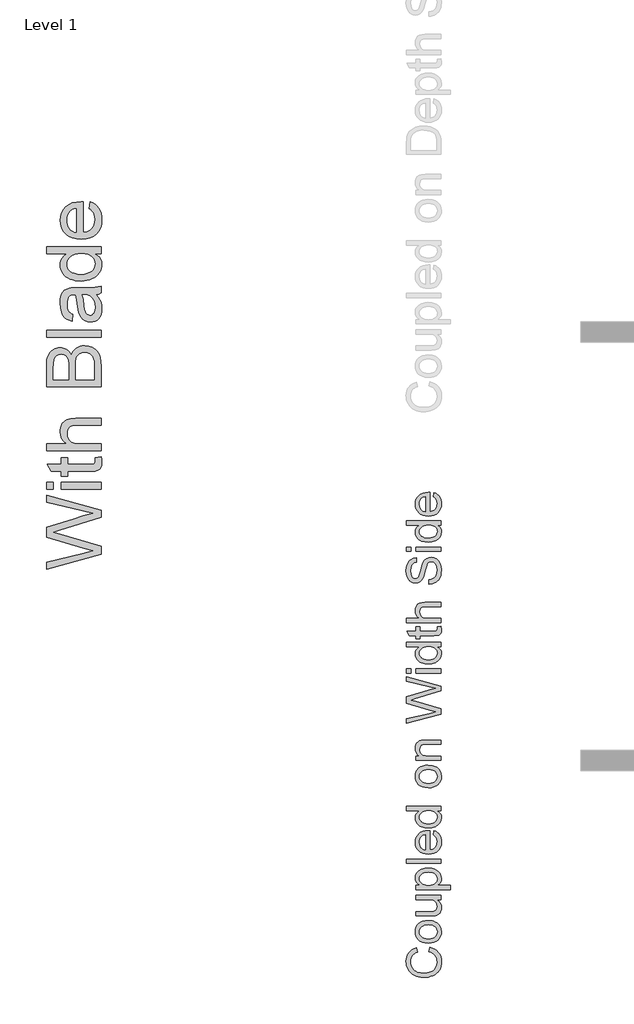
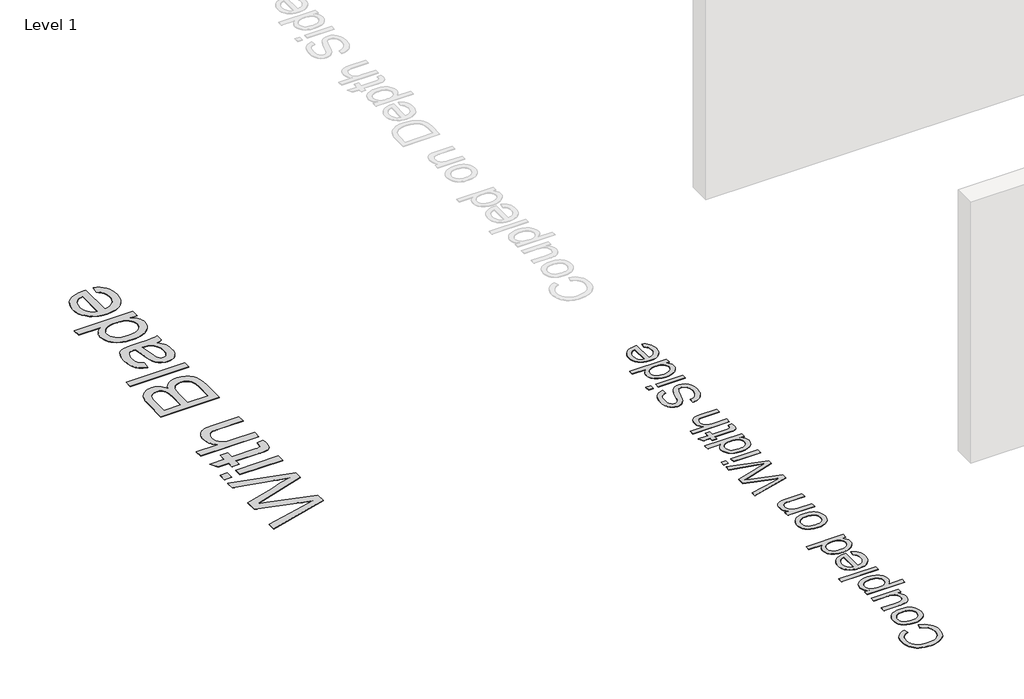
# One storey, part 48 of 80: 2 proxies.
"""IFC4 building model written with IfcOpenShell, lengths in millimetres."""

from ifc_helpers import new_model, si_unit, origin, origin_with_axes, place, context, project, spatial, polyline, outline, extrude, element, save

model = new_model("IFC4")

# Units and contexts
model_context = context("Model", 3, world=origin())
ifc_project = project(units=[si_unit("LENGTHUNIT", "METRE", prefix="MILLI")], contexts=[model_context])

# Site, building, storey
site = spatial("IfcSite", under=ifc_project)
building = spatial("IfcBuilding", under=site)
storey = spatial("IfcBuildingStorey", under=building, Name="Level 1", Elevation=0.0)

# Proxies
placement = place(None, origin())
element("IfcBuildingElementProxy", 1, Name="500mm Arial", ObjectType="500mm Arial", at=placement, inside=storey, context=model_context, shape_type="SweptSolid", body=[
    extrude(outline(polyline([(125834.4472638, 44082.6564057), (125850.6340716, 44145.4415995), (125889.6793805, 44133.017918), (125923.7966034, 44116.4708924), (125952.9857405, 44095.8005228), (125977.2467916, 44071.0068092), (125996.3191738, 44042.6492387), (126009.942304, 44011.2872986), (126018.116182, 43976.9209889), (126020.8408081, 43939.5503096), (126018.779136, 43901.2637573), (126012.59412, 43866.7250029), (126002.2857599, 43835.9340464), (125987.8540558, 43808.8908876), (125969.5136055, 43785.2238126), (125947.4790069, 43764.5611072), (125921.7502598, 43746.9027714), (125892.3273644, 43732.2488053), (125860.4825792, 43720.7409966), (125827.4881628, 43712.5211333), (125793.3441151, 43707.5892153), (125758.0504362, 43705.9452426), (125720.1815833, 43707.8038131), (125684.8112623, 43713.3795246), (125651.9394732, 43722.6723771), (125621.566216, 43735.6823706), (125594.1934963, 43752.1182651), (125570.3233197, 43771.6888208), (125549.9556863, 43794.3940377), (125533.0905961, 43820.2339158), (125519.8660048, 43848.3309032), (125510.4198682, 43877.807448), (125504.7521862, 43908.6635504), (125502.8629589, 43940.8992102), (125505.3078413, 43976.8098579), (125512.6424886, 44009.7391286), (125524.8669007, 44039.6870222), (125541.9810777, 44066.6535389), (125563.5328312, 44090.1941545), (125589.0699731, 44109.8643449), (125618.5925032, 44125.6641102), (125652.1004216, 44137.5934503), (125667.060956, 44074.8082565), (125642.3707092, 44064.9214278), (125621.2749761, 44053.0419051), (125603.7737566, 44039.1696882), (125589.8670507, 44023.3047771), (125579.2712828, 44005.3552014), (125571.7028772, 43985.2289906), (125567.1618338, 43962.9261447), (125565.6481527, 43938.4466636), (125567.3266143, 43910.2806983), (125572.3619991, 43884.5212944), (125580.7543071, 43861.168452), (125592.5035383, 43840.2221709), (125607.0808624, 43821.9468663), (125623.9574489, 43806.6069536), (125643.1332979, 43794.2024325), (125664.6084094, 43784.7333033), (125710.563002, 43772.7311532), (125757.9278088, 43768.7304365), (125815.9305368, 43773.4669172), (125866.0851154, 43787.6763592), (125887.7403358, 43798.4675644), (125906.4754928, 43811.8952572), (125922.2905865, 43827.9594377), (125935.1856169, 43846.6601058), (125952.3381149, 43888.3380701), (125958.0556142, 43933.2963156), (125956.1089053, 43960.5923933), (125950.2687787, 43985.7041715), (125940.5352342, 44008.6316505), (125926.908272, 44029.3748301), (125909.4492056, 44047.443201), (125888.2193488, 44062.3462539), (125863.2187015, 44074.0839888), (125834.4472638, 44082.6564057)])), origin_with_axes(), (0.0, 0.0, 1.0), 5.0),
    extrude(outline(polyline([(125828.5611519, 44208.2267934), (125780.790142, 44211.6220376), (125739.6256796, 44221.8077704), (125705.0677647, 44238.7839916), (125677.1163972, 44262.5507013), (125659.2511278, 44286.4783594), (125646.4902211, 44312.889221), (125638.8336771, 44341.783286), (125636.2814958, 44373.1605545), (125639.3893322, 44407.7989437), (125648.7128415, 44439.1187306), (125664.2520237, 44467.1199154), (125686.0068788, 44491.802498), (125713.2416427, 44511.9478693), (125745.2205516, 44526.3374203), (125781.9436053, 44534.9711509), (125823.410804, 44537.8490611), (125886.8397913, 44532.7600268), (125912.8751067, 44526.398734), (125935.1243032, 44517.492924), (125954.3423053, 44506.1537279), (125971.2840376, 44492.4922767), (125985.9495001, 44476.5085705), (125998.3386927, 44458.2026091), (126015.2152792, 44417.4750065), (126020.8408081, 44373.1605545), (126017.7444679, 44338.0163277), (126008.4554476, 44306.4053008), (125992.9737469, 44278.327474), (125971.299366, 44253.7828471), (125943.8001869, 44233.8520736), (125910.8440915, 44219.6158068), (125872.4310798, 44211.0740467), (125828.5611519, 44208.2267934)]), holes=[polyline([(125828.4385246, 44271.0119872), (125858.892256, 44272.8284046), (125885.2609644, 44278.2776566), (125907.5446499, 44287.3597434), (125925.7433123, 44300.0746648), (125939.8799444, 44315.541037), (125949.9775387, 44332.8774761), (125956.0360954, 44352.0839819), (125958.0556142, 44373.1605545), (125956.024599, 44394.1298283), (125949.9315535, 44413.259692), (125939.7764776, 44430.5501458), (125925.5593713, 44446.0011896), (125907.1806, 44458.716111), (125884.5405289, 44467.7981978), (125857.639158, 44473.2474499), (125826.4764873, 44475.0638672), (125796.9884461, 44473.2359535), (125771.3095164, 44467.7522126), (125749.4396982, 44458.6126442), (125731.3789915, 44445.8172486), (125717.2423594, 44430.3087232), (125707.1447651, 44413.0297658), (125701.0862085, 44393.9803762), (125699.0666896, 44373.1605545), (125701.0785443, 44352.0839819), (125707.1141083, 44332.8774761), (125717.1733816, 44315.541037), (125731.2563642, 44300.0746648), (125749.4013772, 44287.3597434), (125771.6467416, 44278.2776566), (125797.9924574, 44272.8284046), (125828.4385246, 44271.0119872)])]), origin_with_axes(), (0.0, 0.0, 1.0), 5.0),
    extrude(outline(polyline([(126012.9926588, 44843.926881), (125949.5943283, 44843.926881), (125980.7646632, 44821.2101678), (126003.0291881, 44794.753321), (126016.3879031, 44764.5563406), (126020.8408081, 44730.6192265), (126017.7138111, 44700.0390357), (126008.3328202, 44671.5741663), (125994.2306771, 44647.6924934), (125976.9402233, 44630.8618922), (125955.9402927, 44619.5341924), (125930.7097192, 44612.1612241), (125872.3391093, 44608.4824041), (125644.129645, 44608.4824041), (125644.129645, 44671.267598), (125842.7859224, 44671.267598), (125906.7973896, 44675.0690453), (125928.1498737, 44684.2201099), (125944.3826667, 44699.9010799), (125954.6373773, 44721.0696231), (125958.0556142, 44746.683407), (125954.5607353, 44773.7687189), (125944.0760984, 44799.1065913), (125927.5673939, 44819.9992229), (125906.0003119, 44833.7488125), (125876.4624534, 44841.3823639), (125836.0414192, 44843.926881), (125644.129645, 44843.926881), (125644.129645, 44906.7120749), (126012.9926588, 44906.7120749), (126012.9926588, 44843.926881)])), origin_with_axes(), (0.0, 0.0, 1.0), 5.0),
    extrude(outline(polyline([(126154.259345, 44993.0417164), (125644.129645, 44993.0417164), (125644.129645, 45055.8269103), (125705.6885655, 45055.8269103), (125675.3229725, 45076.3056747), (125653.6332632, 45099.2369857), (125640.6194376, 45125.969744), (125636.2814958, 45157.8528503), (125637.799009, 45179.7494932), (125642.3515487, 45200.3125639), (125649.9391148, 45219.5420623), (125660.5617075, 45237.4379885), (125673.943415, 45253.6094679), (125689.8083261, 45267.6656258), (125728.9877586, 45289.4319772), (125775.2489195, 45302.5837585), (125825.7407233, 45306.9676856), (125879.4361662, 45302.0166071), (125927.460095, 45287.1633716), (125948.735937, 45276.1422401), (125967.3752914, 45262.8831599), (125983.3781582, 45247.3861308), (125996.7445374, 45229.651153), (126014.8167404, 45190.9469014), (126020.8408081, 45150.2499557), (126016.8094345, 45121.3865475), (126004.7153139, 45095.6194794), (125986.4591699, 45073.5618881), (125963.9417261, 45055.8269103), (126154.259345, 45055.8269103), (126154.259345, 44993.0417164)]), holes=[polyline([(125831.5042079, 45055.8269103), (125861.762502, 45057.5245324), (125887.7901531, 45062.6173988), (125909.5871614, 45071.1055094), (125927.1535266, 45082.9888642), (125940.6731899, 45097.2941089), (125950.3300923, 45113.0478889), (125956.1242337, 45130.2502043), (125958.0556142, 45148.901055), (125956.0552559, 45167.8201531), (125950.0541808, 45185.336701), (125940.0523891, 45201.4506988), (125926.0498806, 45216.1621465), (125907.8473861, 45228.4210476), (125885.245636, 45237.1774055), (125858.2446304, 45242.4312202), (125826.8443693, 45244.1824918), (125796.8466583, 45242.4733734), (125770.8649923, 45237.346018), (125748.8993715, 45228.8004259), (125730.9497959, 45216.8365968), (125717.0009369, 45202.4968632), (125707.0374662, 45186.8235574), (125701.0593838, 45169.8166793), (125699.0666896, 45151.476229), (125701.1858432, 45133.1932603), (125707.5433039, 45115.9909449), (125718.1390718, 45099.8692829), (125732.9731468, 45084.8282742), (125751.8462596, 45072.1401775), (125774.5591407, 45063.0772512), (125801.1117901, 45057.6394955), (125831.5042079, 45055.8269103)])]), origin_with_axes(), (0.0, 0.0, 1.0), 5.0),
    extrude(outline(polyline([(126012.9926588, 45377.6010287), (125510.7111081, 45377.6010287), (125510.7111081, 45440.3862226), (126012.9926588, 45440.3862226), (126012.9926588, 45377.6010287)])), origin_with_axes(), (0.0, 0.0, 1.0), 5.0),
    extrude(outline(polyline([(125903.1185696, 45792.8171739), (125910.9667188, 45854.3760945), (125935.6224767, 45844.937622), (125957.3505071, 45832.1958758), (125976.1508099, 45816.1508559), (125992.0233851, 45796.8025622), (126004.6310077, 45774.3502642), (126013.6364523, 45748.9932313), (126019.0397191, 45720.7314634), (126020.8408081, 45689.5649606), (126017.7329716, 45650.6077902), (126008.4094623, 45615.8965911), (125992.8702801, 45585.4313634), (125971.115425, 45559.212107), (125943.7503696, 45538.1278701), (125911.3805861, 45523.067701), (125874.0060746, 45514.0315995), (125831.6268352, 45511.0195656), (125787.8105567, 45514.0622563), (125749.1906115, 45523.1903283), (125715.7669994, 45538.4037816), (125687.5397204, 45559.7026163), (125665.1142471, 45585.8528948), (125649.0960519, 45615.6206796), (125639.4851348, 45649.0059706), (125636.2814958, 45686.008768), (125639.4774706, 45721.819781), (125649.0653951, 45754.2048929), (125665.0452693, 45783.1641037), (125687.4170931, 45808.6974134), (125715.5830584, 45829.5402277), (125748.9453568, 45844.4279522), (125787.5039884, 45853.3605869), (125831.2589532, 45856.3381318), (125848.181525, 45855.9702498), (125848.181525, 45573.8047595), (125873.2358217, 45577.4414263), (125895.1784499, 45584.6726067), (125914.0094095, 45595.4983009), (125929.7287006, 45609.9185087), (125942.1217253, 45627.1361525), (125950.9738858, 45646.3541546), (125956.2851821, 45667.5725151), (125958.0556142, 45690.7912339), (125954.7753331, 45724.2071818), (125944.9344897, 45752.3501545), (125927.9199474, 45775.2201518), (125903.1185696, 45792.8171739)]), holes=[polyline([(125785.3963312, 45573.8047595), (125785.3963312, 45793.5529379), (125752.2256379, 45785.0609952), (125728.4972492, 45768.4143349), (125715.6213794, 45751.2924937), (125706.4243295, 45731.8100764), (125700.9060996, 45709.9670829), (125699.0666896, 45685.7635133), (125704.9374731, 45643.4417555), (125712.2759525, 45625.0284952), (125722.5498236, 45608.4469807), (125735.2839056, 45594.5326106), (125750.0030175, 45584.1207838), (125766.7071594, 45577.2115), (125785.3963312, 45573.8047595)])]), origin_with_axes(), (0.0, 0.0, 1.0), 5.0),
    extrude(outline(polyline([(126012.9926588, 46146.7196533), (125953.7636576, 46146.7196533), (125983.1099109, 46127.9346789), (126004.0715205, 46105.1796447), (126016.6484862, 46078.4545506), (126020.8408081, 46047.7593966), (126014.7707551, 46007.1697498), (125996.5605964, 45970.0136683), (125967.4825903, 45938.5597577), (125928.8089956, 45915.0766237), (125882.1033106, 45900.4533144), (125828.9290339, 45895.5788779), (125776.4138791, 45900.0701039), (125728.9877586, 45913.543782), (125707.8575365, 45923.6452085), (125689.3484736, 45935.9845837), (125673.4605699, 45950.5619078), (125660.1938255, 45967.3771806), (125642.2595782, 46005.3456682), (125636.2814958, 46047.5141419), (125640.558124, 46078.2322885), (125653.3880085, 46105.3942425), (125673.0543669, 46128.417524), (125697.8404163, 46146.7196533), (125510.7111081, 46146.7196533), (125510.7111081, 46209.5048471), (126012.9926588, 46209.5048471), (126012.9926588, 46146.7196533)]), holes=[polyline([(125828.6837793, 45958.3640718), (125859.1298465, 45960.1345039), (125885.4755623, 45965.4458002), (125907.7209267, 45974.2979607), (125925.8659396, 45986.6909854), (125939.9489223, 46001.4905715), (125950.0081956, 46017.5624162), (125956.0437596, 46034.9065194), (125958.0556142, 46053.5228812), (125956.1357301, 46072.2273814), (125950.3760776, 46089.4680178), (125940.7766568, 46105.2447904), (125927.3374676, 46119.5576993), (125909.9512112, 46131.4410542), (125888.5105887, 46139.9291648), (125863.0156, 46145.0220312), (125833.4662452, 46146.7196533), (125801.069637, 46144.9913743), (125773.2868821, 46139.8065375), (125750.1179807, 46131.1651427), (125731.5629325, 46119.06719), (125717.3458263, 46104.4400486), (125707.1907503, 46088.2110876), (125701.0977048, 46070.3803072), (125699.0666896, 46050.9477072), (125701.0172306, 46031.9634634), (125706.8688536, 46014.6193602), (125716.6215586, 45998.9153975), (125730.2753455, 45984.8515754), (125748.1291186, 45973.2632926), (125770.4817819, 45964.9859477), (125797.3333355, 45960.0195407), (125828.6837793, 45958.3640718)])]), origin_with_axes(), (0.0, 0.0, 1.0), 5.0),
    extrude(outline(polyline([(125828.5611519, 46484.1900702), (125780.790142, 46487.5853144), (125739.6256796, 46497.7710472), (125705.0677647, 46514.7472684), (125677.1163972, 46538.5139782), (125659.2511278, 46562.4416363), (125646.4902211, 46588.8524978), (125638.8336771, 46617.7465629), (125636.2814958, 46649.1238314), (125639.3893322, 46683.7622205), (125648.7128415, 46715.0820074), (125664.2520237, 46743.0831922), (125686.0068788, 46767.7657748), (125713.2416427, 46787.9111462), (125745.2205516, 46802.3006971), (125781.9436053, 46810.9344277), (125823.410804, 46813.8123379), (125886.8397913, 46808.7233036), (125912.8751067, 46802.3620108), (125935.1243032, 46793.4562008), (125954.3423053, 46782.1170047), (125971.2840376, 46768.4555536), (125985.9495001, 46752.4718473), (125998.3386927, 46734.1658859), (126015.2152792, 46693.4382834), (126020.8408081, 46649.1238314), (126017.7444679, 46613.9796045), (126008.4554476, 46582.3685777), (125992.9737469, 46554.2907508), (125971.299366, 46529.7461239), (125943.8001869, 46509.8153504), (125910.8440915, 46495.5790836), (125872.4310798, 46487.0373236), (125828.5611519, 46484.1900702)]), holes=[polyline([(125828.4385246, 46546.975264), (125858.892256, 46548.7916814), (125885.2609644, 46554.2409334), (125907.5446499, 46563.3230202), (125925.7433123, 46576.0379417), (125939.8799444, 46591.5043139), (125949.9775387, 46608.8407529), (125956.0360954, 46628.0472587), (125958.0556142, 46649.1238314), (125956.024599, 46670.0931051), (125949.9315535, 46689.2229688), (125939.7764776, 46706.5134226), (125925.5593713, 46721.9644664), (125907.1806, 46734.6793879), (125884.5405289, 46743.7614746), (125857.639158, 46749.2107267), (125826.4764873, 46751.027144), (125796.9884461, 46749.1992304), (125771.3095164, 46743.7154894), (125749.4396982, 46734.5759211), (125731.3789915, 46721.7805254), (125717.2423594, 46706.2720001), (125707.1447651, 46688.9930426), (125701.0862085, 46669.943653), (125699.0666896, 46649.1238314), (125701.0785443, 46628.0472587), (125707.1141083, 46608.8407529), (125717.1733816, 46591.5043139), (125731.2563642, 46576.0379417), (125749.4013772, 46563.3230202), (125771.6467416, 46554.2409334), (125797.9924574, 46548.7916814), (125828.4385246, 46546.975264)])]), origin_with_axes(), (0.0, 0.0, 1.0), 5.0),
    extrude(outline(polyline([(126012.9926588, 46884.445681), (125644.129645, 46884.445681), (125644.129645, 46947.2308748), (125695.6331243, 46947.2308748), (125669.6667868, 46969.0432114), (125651.1194029, 46995.2394752), (125639.9909726, 47025.819666), (125636.2814958, 47060.783784), (125639.270537, 47091.7318568), (125648.2376606, 47120.0740989), (125662.0638923, 47143.7105171), (125679.6302575, 47160.5411183), (125700.8907712, 47171.9607886), (125725.7994479, 47179.3644138), (125786.4999771, 47182.6753517), (126012.9926588, 47182.6753517), (126012.9926588, 47119.8901579), (125794.961263, 47119.8901579), (125762.495677, 47118.0814047), (125739.4110818, 47112.6551453), (125722.8717204, 47102.6456893), (125710.0418358, 47087.0873466), (125701.8104762, 47067.1450768), (125699.0666896, 47043.9838395), (125700.6071955, 47024.9191215), (125705.228713, 47007.2109684), (125712.9312423, 46990.8593802), (125723.7147833, 46975.8643568), (125738.8056093, 46963.3372084), (125759.4299937, 46954.3892453), (125785.5879364, 46949.0204674), (125817.2794374, 46947.2308748), (126012.9926588, 46947.2308748), (126012.9926588, 46884.445681)])), origin_with_axes(), (0.0, 0.0, 1.0), 5.0),
    extrude(outline(polyline([(126012.9926588, 47562.9427074), (125510.7111081, 47425.9679779), (125510.7111081, 47490.715209), (125840.8238851, 47570.17772), (125942.7271978, 47594.7031863), (125852.5961089, 47620.9454353), (125510.7111081, 47720.5188287), (125510.7111081, 47813.8382281), (125758.5409455, 47886.1883538), (125850.5114443, 47917.1824119), (125942.7271978, 47940.0217524), (125843.7669411, 47963.8114548), (125510.7111081, 48044.0097297), (125510.7111081, 48108.7569609), (126012.9926588, 47971.659604), (126012.9926588, 47904.5824536), (125625.4902906, 47784.1624138), (125571.4116373, 47767.3624694), (125636.5267504, 47748.4778603), (126012.9926588, 47638.7263984), (126012.9926588, 47562.9427074)])), origin_with_axes(), (0.0, 0.0, 1.0), 5.0),
    extrude(outline(polyline([(126012.9926588, 48163.6940055), (125644.129645, 48163.6940055), (125644.129645, 48226.4791994), (126012.9926588, 48226.4791994), (126012.9926588, 48163.6940055)])), origin_with_axes(), (0.0, 0.0, 1.0), 5.0),
    extrude(outline(polyline([(125573.4963019, 48163.6940055), (125510.7111081, 48163.6940055), (125510.7111081, 48226.4791994), (125573.4963019, 48226.4791994), (125573.4963019, 48163.6940055)])), origin_with_axes(), (0.0, 0.0, 1.0), 5.0),
    extrude(outline(polyline([(126012.9926588, 48548.2533178), (125953.7636576, 48548.2533178), (125983.1099109, 48529.4683434), (126004.0715205, 48506.7133092), (126016.6484862, 48479.9882151), (126020.8408081, 48449.2930611), (126014.7707551, 48408.7034143), (125996.5605964, 48371.5473328), (125967.4825903, 48340.0934222), (125928.8089956, 48316.6102882), (125882.1033106, 48301.9869789), (125828.9290339, 48297.1125424), (125776.4138791, 48301.6037685), (125728.9877586, 48315.0774465), (125707.8575365, 48325.178873), (125689.3484736, 48337.5182482), (125673.4605699, 48352.0955723), (125660.1938255, 48368.9108452), (125642.2595782, 48406.8793327), (125636.2814958, 48449.0478064), (125640.558124, 48479.765953), (125653.3880085, 48506.927907), (125673.0543669, 48529.9511885), (125697.8404163, 48548.2533178), (125510.7111081, 48548.2533178), (125510.7111081, 48611.0385116), (126012.9926588, 48611.0385116), (126012.9926588, 48548.2533178)]), holes=[polyline([(125828.6837793, 48359.8977363), (125859.1298465, 48361.6681684), (125885.4755623, 48366.9794647), (125907.7209267, 48375.8316252), (125925.8659396, 48388.2246499), (125939.9489223, 48403.024236), (125950.0081956, 48419.0960807), (125956.0437596, 48436.4401839), (125958.0556142, 48455.0565457), (125956.1357301, 48473.7610459), (125950.3760776, 48491.0016823), (125940.7766568, 48506.778455), (125927.3374676, 48521.0913638), (125909.9512112, 48532.9747187), (125888.5105887, 48541.4628293), (125863.0156, 48546.5556957), (125833.4662452, 48548.2533178), (125801.069637, 48546.5250388), (125773.2868821, 48541.340202), (125750.1179807, 48532.6988072), (125731.5629325, 48520.6008545), (125717.3458263, 48505.9737131), (125707.1907503, 48489.7447522), (125701.0977048, 48471.9139717), (125699.0666896, 48452.4813717), (125701.0172306, 48433.4971279), (125706.8688536, 48416.1530247), (125716.6215586, 48400.449062), (125730.2753455, 48386.3852399), (125748.1291186, 48374.7969571), (125770.4817819, 48366.5196122), (125797.3333355, 48361.5532053), (125828.6837793, 48359.8977363)])]), origin_with_axes(), (0.0, 0.0, 1.0), 5.0),
    extrude(outline(polyline([(125960.6307882, 48838.6348393), (126014.8320688, 48846.4829886), (126020.8408081, 48799.5167205), (126018.2349773, 48769.3810537), (126010.4174849, 48746.9095952), (125998.3693495, 48731.0293557), (125983.0715899, 48720.6673462), (125956.7986841, 48714.9651753), (125911.8251102, 48713.0644516), (125706.9148388, 48713.0644516), (125706.9148388, 48665.9755563), (125644.129645, 48665.9755563), (125644.129645, 48713.0644516), (125554.4890655, 48713.0644516), (125517.5782387, 48775.8496455), (125644.129645, 48775.8496455), (125644.129645, 48838.6348393), (125706.9148388, 48838.6348393), (125706.9148388, 48775.8496455), (125909.9857002, 48775.8496455), (125942.3593158, 48779.1605834), (125953.8249713, 48789.890475), (125958.0556142, 48811.2889444), (125960.6307882, 48838.6348393)])), origin_with_axes(), (0.0, 0.0, 1.0), 5.0),
    extrude(outline(polyline([(126012.9926588, 48901.4200332), (125510.7111081, 48901.4200332), (125510.7111081, 48964.205227), (125695.3878697, 48964.205227), (125669.5288311, 48987.2668296), (125651.0580892, 49013.1641892), (125639.9756441, 49041.8973059), (125636.2814958, 49073.4661796), (125640.3128693, 49111.3886819), (125652.4069899, 49143.9768953), (125671.6134957, 49169.6366645), (125696.982025, 49186.7738341), (125731.838844, 49196.4307365), (125779.5102192, 49199.6497039), (126012.9926588, 49199.6497039), (126012.9926588, 49136.8645101), (125786.0094678, 49136.8645101), (125746.707408, 49131.8674463), (125731.7008883, 49125.6211166), (125719.7907087, 49116.876255), (125710.7239503, 49105.8397952), (125704.2476944, 49092.7186707), (125699.0666896, 49060.2224278), (125702.5615686, 49033.6889389), (125713.0462054, 49008.7802621), (125729.5089247, 48988.1482135), (125750.9380509, 48974.4446092), (125779.4182487, 48966.7650726), (125817.0341827, 48964.205227), (126012.9926588, 48964.205227), (126012.9926588, 48901.4200332)])), origin_with_axes(), (0.0, 0.0, 1.0), 5.0),
    extrude(outline(polyline([(125840.3333758, 49466.4867778), (125840.3333758, 49529.2719716), (125875.1748664, 49536.4763273), (125903.1798833, 49549.5054813), (125925.4060871, 49569.8309616), (125942.9111388, 49598.924296), (125954.2694954, 49634.4862222), (125958.0556142, 49674.2174777), (125955.1892003, 49709.1969241), (125946.5899587, 49739.8231002), (125932.9783249, 49764.6398064), (125915.0747345, 49782.1908433), (125894.519328, 49792.6294949), (125872.952246, 49796.1090454), (125851.936987, 49793.5032146), (125833.7728135, 49785.6857222), (125818.2757845, 49769.8054828), (125805.2619589, 49743.0114108), (125781.2883155, 49651.592735), (125765.4234045, 49591.5819845), (125750.3249143, 49553.1843013), (125729.2023564, 49521.9296601), (125703.6039009, 49499.7800983), (125674.0813708, 49486.5823318), (125641.186589, 49482.1830762), (125604.4137179, 49487.6246641), (125570.1240503, 49503.9494276), (125554.5963644, 49516.0857013), (125541.0613727, 49530.7281712), (125519.9694716, 49567.5316991), (125507.139587, 49611.7081954), (125502.8629589, 49660.6058439), (125507.3388565, 49713.5808512), (125520.7665493, 49759.9339826), (125542.8701258, 49798.0097691), (125557.0719037, 49813.3228571), (125573.3736746, 49826.1527417), (125610.3764719, 49843.9643617), (125651.9777942, 49851.0460901), (125651.9777942, 49788.2608962), (125631.9435539, 49784.0609101), (125614.5151444, 49776.733927), (125599.6925657, 49766.279947), (125587.4758177, 49752.69897), (125577.9262143, 49735.7380772), (125571.105069, 49715.1443497), (125565.6481527, 49663.0583905), (125571.0437553, 49609.7461581), (125577.7882585, 49589.3670284), (125587.2305631, 49573.1725564), (125598.5812555, 49560.8331811), (125611.0509223, 49552.0193416), (125624.6395635, 49546.731038), (125639.3471791, 49544.9682701), (125663.4741066, 49549.9653338), (125682.8798818, 49564.9565251), (125691.5097803, 49578.7214431), (125700.2316493, 49600.395824), (125717.9512987, 49667.4729745), (125734.7819, 49736.6961032), (125749.466523, 49778.573337), (125772.2445498, 49814.3651895), (125800.3568656, 49839.3351799), (125833.496902, 49854.0044744), (125871.3580907, 49858.8942393), (125910.0623423, 49853.2687104), (125946.4673314, 49836.3921239), (125977.7986146, 49808.9542584), (126001.2817487, 49771.6448928), (126015.9510432, 49726.7786178), (126020.8408081, 49676.6700243), (126015.5678328, 49615.1570891), (126008.9766137, 49588.4818123), (125999.748907, 49564.5273295), (125987.8693842, 49543.1480206), (125973.322717, 49524.1982658), (125956.1089053, 49507.6780649), (125936.2279492, 49493.5874181), (125914.323642, 49482.2367257), (125891.0397774, 49473.9363882), (125866.3763553, 49468.6864055), (125840.3333758, 49466.4867778)])), origin_with_axes(), (0.0, 0.0, 1.0), 5.0),
    extrude(outline(polyline([(126012.9926588, 49945.2238808), (125644.129645, 49945.2238808), (125644.129645, 50008.0090747), (126012.9926588, 50008.0090747), (126012.9926588, 49945.2238808)])), origin_with_axes(), (0.0, 0.0, 1.0), 5.0),
    extrude(outline(polyline([(125573.4963019, 49945.2238808), (125510.7111081, 49945.2238808), (125510.7111081, 50008.0090747), (125573.4963019, 50008.0090747), (125573.4963019, 49945.2238808)])), origin_with_axes(), (0.0, 0.0, 1.0), 5.0),
    extrude(outline(polyline([(126012.9926588, 50329.7831931), (125953.7636576, 50329.7831931), (125983.1099109, 50310.9982187), (126004.0715205, 50288.2431845), (126016.6484862, 50261.5180904), (126020.8408081, 50230.8229364), (126014.7707551, 50190.2332896), (125996.5605964, 50153.0772081), (125967.4825903, 50121.6232975), (125928.8089956, 50098.1401635), (125882.1033106, 50083.5168542), (125828.9290339, 50078.6424177), (125776.4138791, 50083.1336438), (125728.9877586, 50096.6073218), (125707.8575365, 50106.7087483), (125689.3484736, 50119.0481235), (125673.4605699, 50133.6254476), (125660.1938255, 50150.4407205), (125642.2595782, 50188.4092081), (125636.2814958, 50230.5776817), (125640.558124, 50261.2958283), (125653.3880085, 50288.4577823), (125673.0543669, 50311.4810639), (125697.8404163, 50329.7831931), (125510.7111081, 50329.7831931), (125510.7111081, 50392.568387), (126012.9926588, 50392.568387), (126012.9926588, 50329.7831931)]), holes=[polyline([(125828.6837793, 50141.4276116), (125859.1298465, 50143.1980437), (125885.4755623, 50148.50934), (125907.7209267, 50157.3615005), (125925.8659396, 50169.7545252), (125939.9489223, 50184.5541113), (125950.0081956, 50200.625956), (125956.0437596, 50217.9700592), (125958.0556142, 50236.586421), (125956.1357301, 50255.2909212), (125950.3760776, 50272.5315576), (125940.7766568, 50288.3083303), (125927.3374676, 50302.6212391), (125909.9512112, 50314.504594), (125888.5105887, 50322.9927046), (125863.0156, 50328.085571), (125833.4662452, 50329.7831931), (125801.069637, 50328.0549142), (125773.2868821, 50322.8700773), (125750.1179807, 50314.2286825), (125731.5629325, 50302.1307298), (125717.3458263, 50287.5035884), (125707.1907503, 50271.2746275), (125701.0977048, 50253.443847), (125699.0666896, 50234.011247), (125701.0172306, 50215.0270032), (125706.8688536, 50197.6829), (125716.6215586, 50181.9789373), (125730.2753455, 50167.9151152), (125748.1291186, 50156.3268324), (125770.4817819, 50148.0494875), (125797.3333355, 50143.0830806), (125828.6837793, 50141.4276116)])]), origin_with_axes(), (0.0, 0.0, 1.0), 5.0),
    extrude(outline(polyline([(125903.1185696, 50744.9993383), (125910.9667188, 50806.5582589), (125935.6224767, 50797.1197864), (125957.3505071, 50784.3780402), (125976.1508099, 50768.3330203), (125992.0233851, 50748.9847266), (126004.6310077, 50726.5324286), (126013.6364523, 50701.1753957), (126019.0397191, 50672.9136278), (126020.8408081, 50641.747125), (126017.7329716, 50602.7899546), (126008.4094623, 50568.0787555), (125992.8702801, 50537.6135278), (125971.115425, 50511.3942714), (125943.7503696, 50490.3100346), (125911.3805861, 50475.2498654), (125874.0060746, 50466.2137639), (125831.6268352, 50463.20173), (125787.8105567, 50466.2444207), (125749.1906115, 50475.3724927), (125715.7669994, 50490.585946), (125687.5397204, 50511.8847807), (125665.1142471, 50538.0350592), (125649.0960519, 50567.802844), (125639.4851348, 50601.1881351), (125636.2814958, 50638.1909324), (125639.4774706, 50674.0019454), (125649.0653951, 50706.3870573), (125665.0452693, 50735.3462681), (125687.4170931, 50760.8795778), (125715.5830584, 50781.7223921), (125748.9453568, 50796.6101166), (125787.5039884, 50805.5427513), (125831.2589532, 50808.5202962), (125848.181525, 50808.1524142), (125848.181525, 50525.9869239), (125873.2358217, 50529.6235907), (125895.1784499, 50536.8547711), (125914.0094095, 50547.6804653), (125929.7287006, 50562.1006731), (125942.1217253, 50579.3183169), (125950.9738858, 50598.536319), (125956.2851821, 50619.7546795), (125958.0556142, 50642.9733983), (125954.7753331, 50676.3893462), (125944.9344897, 50704.5323189), (125927.9199474, 50727.4023162), (125903.1185696, 50744.9993383)]), holes=[polyline([(125785.3963312, 50525.9869239), (125785.3963312, 50745.7351023), (125752.2256379, 50737.2431596), (125728.4972492, 50720.5964993), (125715.6213794, 50703.4746581), (125706.4243295, 50683.9922408), (125700.9060996, 50662.1492473), (125699.0666896, 50637.9456777), (125704.9374731, 50595.6239199), (125712.2759525, 50577.2106596), (125722.5498236, 50560.6291451), (125735.2839056, 50546.714775), (125750.0030175, 50536.3029482), (125766.7071594, 50529.3936644), (125785.3963312, 50525.9869239)])]), origin_with_axes(), (0.0, 0.0, 1.0), 5.0),
])
element("IfcBuildingElementProxy", 2, Name="800mm Arial", ObjectType="800mm Arial", at=placement, inside=storey, context=model_context, shape_type="SweptSolid", body=[
    extrude(outline(polyline([(121031.971127, 49900.4211976), (120232.5824286, 49682.4238402), (120232.5824286, 49785.4700396), (120757.9619149, 49911.9358298), (120920.142581, 49950.9684811), (120776.6975875, 49992.7334179), (120232.5824286, 50151.2059822), (120232.5824286, 50299.7252203), (120627.0073699, 50414.8715416), (120773.3798122, 50464.1990547), (120920.142581, 50500.5482112), (120762.6458331, 50538.4098829), (120232.5824286, 50666.0466526), (120232.5824286, 50769.092852), (121031.971127, 50550.9003313), (121031.971127, 50444.1460301), (120415.2552366, 50252.4957122), (120329.1882405, 50225.7583461), (120432.8199297, 50195.7032046), (121031.971127, 50021.0320901), (121031.971127, 49900.4211976)])), origin_with_axes(), (0.0, 0.0, 1.0), 5.0),
    extrude(outline(polyline([(121031.971127, 50856.5259909), (120444.9200516, 50856.5259909), (120444.9200516, 50956.4495782), (121031.971127, 50956.4495782), (121031.971127, 50856.5259909)])), origin_with_axes(), (0.0, 0.0, 1.0), 5.0),
    extrude(outline(polyline([(120332.5060159, 50856.5259909), (120232.5824286, 50856.5259909), (120232.5824286, 50956.4495782), (120332.5060159, 50956.4495782), (120332.5060159, 50856.5259909)])), origin_with_axes(), (0.0, 0.0, 1.0), 5.0),
    extrude(outline(polyline([(120948.6364165, 51318.6725821), (121034.8985758, 51331.1630305), (121042.0708255, 51291.5936803), (121044.4615754, 51256.4155033), (121040.3143562, 51208.4541331), (121027.8726986, 51172.6904663), (121008.6979086, 51147.4168246), (120984.3512924, 51130.9255294), (120942.5375647, 51121.850438), (120870.9614404, 51118.8254075), (120544.8436389, 51118.8254075), (120544.8436389, 51043.8827171), (120444.9200516, 51043.8827171), (120444.9200516, 51118.8254075), (120302.2557112, 51118.8254075), (120243.511571, 51218.7489948), (120444.9200516, 51218.7489948), (120444.9200516, 51318.6725821), (120544.8436389, 51318.6725821), (120544.8436389, 51218.7489948), (120868.0339916, 51218.7489948), (120900.9190003, 51220.0663468), (120919.5570913, 51224.0184028), (120929.8763484, 51230.922303), (120937.8048557, 51241.0951877), (120942.854705, 51255.5128733), (120944.5379881, 51275.1511759), (120948.6364165, 51318.6725821)])), origin_with_axes(), (0.0, 0.0, 1.0), 5.0),
    extrude(outline(polyline([(121031.971127, 51418.5961694), (120232.5824286, 51418.5961694), (120232.5824286, 51518.5197567), (120526.4982928, 51518.5197567), (120485.3432411, 51555.2226466), (120455.9467756, 51596.4386868), (120438.3088963, 51642.1678774), (120432.4296032, 51692.4102182), (120434.0336012, 51723.6485369), (120438.8455953, 51752.7644552), (120446.8655853, 51779.7579731), (120458.0935714, 51804.6290906), (120472.1514247, 51826.7435271), (120488.6610165, 51845.467002), (120507.6223466, 51860.7995154), (120529.0354151, 51872.7410671), (120554.2236729, 51881.7063792), (120584.5105708, 51888.1101736), (120660.3802867, 51893.2332091), (121031.971127, 51893.2332091), (121031.971127, 51793.3096218), (120670.7239393, 51793.3096218), (120636.9850913, 51791.3213961), (120608.1741156, 51785.3567191), (120584.2910121, 51775.4155907), (120565.3357808, 51761.498011), (120550.9058976, 51743.9333179), (120540.5988381, 51723.0508495), (120534.4146024, 51698.8506057), (120532.3531905, 51671.3325865), (120537.9153433, 51629.1041369), (120554.6018017, 51589.4616004), (120566.7141213, 51571.665151), (120580.8024689, 51556.6253825), (120596.8668444, 51544.3422951), (120614.907248, 51534.8158886), (120660.2339143, 51522.5937897), (120720.1002432, 51518.5197567), (121031.971127, 51518.5197567), (121031.971127, 51418.5961694)])), origin_with_axes(), (0.0, 0.0, 1.0), 5.0),
    extrude(outline(polyline([(121031.971127, 52355.3798003), (120232.5824286, 52355.3798003), (120232.5824286, 52660.4199701), (120234.0522519, 52704.6671396), (120238.4617217, 52744.3157749), (120245.8108381, 52779.365876), (120256.099601, 52809.8174429), (120269.4377898, 52836.4450297), (120285.9351838, 52860.0231906), (120305.5917831, 52880.5519256), (120328.4075875, 52898.0312348), (120353.0957395, 52911.9915065), (120378.3693812, 52921.9631291), (120404.2285126, 52927.9461027), (120430.6731339, 52929.9404272), (120455.0990352, 52928.263243), (120478.805272, 52923.2316903), (120501.7918443, 52914.8457691), (120524.0587521, 52903.1054795), (120544.9107263, 52887.9742282), (120563.6524977, 52869.4154223), (120580.2840665, 52847.4290617), (120594.8054326, 52822.0151464), (120607.6618121, 52852.1739684), (120624.3726659, 52878.6368862), (120644.937994, 52901.4038998), (120669.3577965, 52920.4750093), (120696.8880134, 52935.545272), (120726.7845847, 52946.3097454), (120759.0475105, 52952.7684294), (120793.6767909, 52954.921324), (120849.420296, 52949.0420309), (120901.1141635, 52931.4041516), (120945.074687, 52905.0815074), (120977.61816, 52873.1479196), (121001.1841233, 52834.0420821), (121018.2121174, 52786.2026889), (121028.5313746, 52728.0684339), (121031.971127, 52658.078011), (121031.971127, 52355.3798003)]), holes=[polyline([(120932.0475397, 52455.3033876), (120932.0475397, 52660.2248068), (120928.1442745, 52734.3868443), (120919.483905, 52768.8087636), (120906.3835714, 52797.1318312), (120887.6235034, 52820.1610955), (120861.9839306, 52838.7016048), (120830.6114371, 52850.9237038), (120794.6526071, 52854.9977368), (120752.8876703, 52850.216237), (120716.9776311, 52835.8717376), (120701.7122051, 52824.8267171), (120688.8985176, 52810.8176546), (120678.5365684, 52793.8445501), (120670.6263577, 52773.9074037), (120660.5998454, 52721.6280464), (120657.2576746, 52650.466644), (120657.2576746, 52455.3033876), (120932.0475397, 52455.3033876)]), polyline([(120557.3340873, 52455.3033876), (120557.3340873, 52637.7810323), (120555.1872915, 52701.5994172), (120548.746904, 52744.3401704), (120533.938892, 52781.6407477), (120511.7634669, 52808.4513001), (120482.5621647, 52824.625455), (120446.6765209, 52830.0168399), (120411.8398796, 52824.9913861), (120381.4919933, 52809.9150245), (120357.804053, 52785.4708266), (120342.9472501, 52752.3418639), (120335.1163245, 52701.5018356), (120332.5060159, 52623.9244411), (120332.5060159, 52455.3033876), (120557.3340873, 52455.3033876)])]), origin_with_axes(), (0.0, 0.0, 1.0), 5.0),
    extrude(outline(polyline([(121031.971127, 53079.8258082), (120232.5824286, 53079.8258082), (120232.5824286, 53179.7493955), (121031.971127, 53179.7493955), (121031.971127, 53079.8258082)])), origin_with_axes(), (0.0, 0.0, 1.0), 5.0),
    extrude(outline(polyline([(120957.0284365, 53704.3482287), (120997.9639295, 53656.6064171), (121013.125675, 53632.2049112), (121024.7500865, 53607.4496719), (121039.5337031, 53555.7558044), (121044.4615754, 53500.4026258), (121041.4975334, 53455.9115022), (121032.6054075, 53416.8971474), (121017.7851978, 53383.3595616), (120997.0369041, 53355.2987446), (120971.6778784, 53333.1416162), (120943.0254728, 53317.3150958), (120911.0796873, 53307.8191836), (120875.8405218, 53304.6538796), (120834.4171206, 53309.4353794), (120796.799403, 53323.7798787), (120764.5974656, 53345.9065129), (120739.4214056, 53374.0344172), (120720.3929881, 53407.0901938), (120706.6339785, 53444.0004447), (120691.6064077, 53530.4577673), (120675.798184, 53632.625732), (120657.2576746, 53703.762739), (120635.0090634, 53704.3482287), (120610.7844242, 53702.6283525), (120590.4142593, 53697.468724), (120573.8985687, 53688.869343), (120561.2373524, 53676.8302096), (120548.6005316, 53656.0209274), (120539.574231, 53630.6740994), (120534.1584506, 53600.7897258), (120532.3531905, 53566.3678064), (120537.1590857, 53506.8430132), (120543.1664547, 53483.813749), (120551.5767713, 53465.2732396), (120563.0487114, 53450.0383079), (120578.2409512, 53436.9257766), (120597.1534905, 53425.9356457), (120619.7863294, 53417.0679153), (120607.295881, 53317.144328), (120552.6501692, 53334.4894624), (120529.7184865, 53346.3639268), (120509.7142527, 53360.3729893), (120492.2349436, 53377.1204362), (120476.8780349, 53397.2100539), (120463.6435265, 53420.6418424), (120452.5314186, 53447.4158016), (120437.4550571, 53508.8190412), (120432.4296032, 53579.2485814), (120436.8695673, 53646.7994635), (120450.1894595, 53700.347382), (120470.2180887, 53740.7217807), (120494.7842636, 53768.7521034), (120525.1565454, 53787.3414035), (120562.6034952, 53799.3927346), (120597.1473916, 53803.0520457), (120650.0366341, 53804.271816), (120774.3556285, 53804.271816), (120882.6468404, 53805.5403772), (120947.9533451, 53809.3460607), (120990.8648661, 53816.8598461), (121031.971127, 53829.2527129), (121031.971127, 53729.3291256), (120997.2320673, 53713.3257385), (120957.0284365, 53704.3482287)]), holes=[polyline([(120757.1812619, 53704.3482287), (120773.8189295, 53637.2120685), (120787.8218932, 53543.1433789), (120795.482051, 53491.3031389), (120804.0204434, 53457.1739645), (120815.0959582, 53434.8033762), (120830.3674831, 53418.2388948), (120848.6640384, 53407.9928238), (120868.8146446, 53404.5774669), (120884.3423212, 53406.4376166), (120898.5282504, 53412.018066), (120911.3724322, 53421.318815), (120922.8748666, 53434.3398635), (120932.3524823, 53450.9592345), (120939.1222077, 53471.0549511), (120944.5379881, 53521.6754207), (120938.5611133, 53575.3453162), (120931.0900199, 53599.8383049), (120920.6304892, 53622.7699876), (120894.2102633, 53661.2171491), (120862.7645836, 53687.9545152), (120830.3674831, 53699.810683), (120785.4799341, 53703.762739), (120757.1812619, 53704.3482287)])]), origin_with_axes(), (0.0, 0.0, 1.0), 5.0),
    extrude(outline(polyline([(121031.971127, 54303.8897525), (120937.7072741, 54303.8897525), (120984.4122809, 54273.9931812), (121002.7606764, 54256.6754916), (121017.7730001, 54237.7781994), (121029.4492518, 54217.3013046), (121037.7894315, 54195.2448072), (121042.7935394, 54171.6087072), (121044.4615754, 54146.3930046), (121042.0464301, 54113.4104142), (121034.8009942, 54081.7939667), (121022.7252677, 54051.5436619), (121005.8192506, 54022.6595), (120984.5891476, 53996.0441109), (120959.5411634, 53972.6001247), (120930.675298, 53952.3275414), (120897.9915514, 53935.2263611), (120862.1120065, 53921.6503171), (120823.6587461, 53911.9531428), (120782.6317703, 53906.1348382), (120739.0310791, 53904.1954033), (120696.2293374, 53905.9823669), (120655.4524145, 53911.3432576), (120616.7003104, 53920.2780754), (120579.9730251, 53932.7868204), (120546.3439564, 53948.8633936), (120516.8865024, 53968.5016963), (120491.600663, 53991.7017284), (120470.4864382, 54018.46349), (120453.8365729, 54047.8416589), (120441.943812, 54078.8909132), (120434.8081554, 54111.6112529), (120432.4296032, 54146.002678), (120434.1311828, 54171.1543427), (120439.2359218, 54194.8910738), (120447.74382, 54217.2128712), (120459.6548775, 54238.1197351), (120490.9541847, 54274.7616365), (120530.4015579, 54303.8897525), (120232.5824286, 54303.8897525), (120232.5824286, 54403.8133398), (121031.971127, 54403.8133398), (121031.971127, 54303.8897525)]), holes=[polyline([(120738.6407525, 54004.1189906), (120787.0961298, 54006.9366601), (120829.0257357, 54015.3896687), (120864.4295702, 54029.4780163), (120893.3076333, 54049.2017029), (120915.7209135, 54072.7554684), (120931.7303994, 54098.3340527), (120941.3360909, 54125.9374557), (120944.5379881, 54155.5656776), (120941.4824633, 54185.3341731), (120932.3158891, 54212.7729072), (120917.0382655, 54237.8818799), (120895.6495923, 54260.6610912), (120867.9791019, 54279.5736305), (120833.8560263, 54293.0825872), (120793.2803655, 54301.1879612), (120746.2521195, 54303.8897525), (120694.6924267, 54301.1391704), (120650.4757514, 54292.8874239), (120613.6020937, 54279.1345132), (120584.0714534, 54259.8804382), (120561.4447134, 54236.601121), (120545.2827562, 54210.7724838), (120535.5855819, 54182.3945265), (120532.3531905, 54151.4672492), (120535.457506, 54121.2535376), (120544.7704527, 54093.6501345), (120560.2920304, 54068.65704), (120582.0222393, 54046.274254), (120610.4367896, 54027.8313263), (120646.011392, 54014.6578065), (120688.7460463, 54006.7536946), (120738.6407525, 54004.1189906)])]), origin_with_axes(), (0.0, 0.0, 1.0), 5.0),
    extrude(outline(polyline([(120857.1048492, 54964.7125388), (120869.5952976, 55062.6844935), (120908.8353099, 55047.6630216), (120943.4157994, 55027.3843395), (120973.3367661, 55001.8484472), (120998.5982101, 54971.0553446), (121018.6634324, 54935.3221721), (121032.9957341, 54894.96607), (121041.595115, 54849.9870382), (121044.4615754, 54800.3850769), (121039.5154066, 54738.3841498), (121024.6769002, 54683.1407506), (120999.9460563, 54634.654879), (120965.3228749, 54592.9265353), (120921.7709744, 54559.3706529), (120870.2539736, 54535.4021654), (120810.7718723, 54521.021073), (120743.3246707, 54516.2273755), (120673.5903996, 54521.0698638), (120612.1261716, 54535.5973287), (120558.9319865, 54559.8097702), (120535.4361601, 54575.5478572), (120514.0078444, 54593.7071883), (120478.3173639, 54635.3257527), (120452.8241635, 54682.7016332), (120437.5282433, 54735.8348298), (120432.4296032, 54794.7253424), (120437.5160456, 54851.7191122), (120452.7753727, 54903.2605084), (120478.2075845, 54949.3495312), (120513.8126811, 54989.9861805), (120558.6392416, 55023.1578352), (120611.735845, 55046.8518743), (120673.1024915, 55061.0682978), (120742.7391809, 55065.8071056), (120769.6717103, 55065.2216158), (120769.6717103, 54616.1509628), (120809.5460031, 54621.9387731), (120844.4680283, 54633.4473064), (120874.4377859, 54650.6765626), (120899.4552758, 54673.6265418), (120919.1789624, 54701.0286828), (120933.26731, 54731.6144244), (120941.7203186, 54765.3837666), (120944.5379881, 54802.3367094), (120939.317371, 54855.5186968), (120923.6555196, 54900.3086642), (120911.6651771, 54919.5566403), (120896.5766178, 54936.7066115), (120878.3898419, 54951.7585776), (120857.1048492, 54964.7125388)]), holes=[polyline([(120669.748123, 54616.1509628), (120669.748123, 54965.8835183), (120641.4738462, 54960.7482851), (120616.9564622, 54952.3684628), (120596.1959708, 54940.7440513), (120579.192372, 54925.8750507), (120558.7002301, 54898.6253811), (120544.0629859, 54867.6188187), (120535.2806393, 54832.8553636), (120532.3531905, 54794.3350159), (120534.6890507, 54759.1995309), (120541.6966314, 54726.979297), (120553.3759325, 54697.6743143), (120569.7269541, 54671.2845827), (120589.9934385, 54649.139652), (120613.4191281, 54632.5690717), (120640.004023, 54621.572842), (120669.748123, 54616.1509628)])]), origin_with_axes(), (0.0, 0.0, 1.0), 5.0),
])

save(model, "model.ifc")
